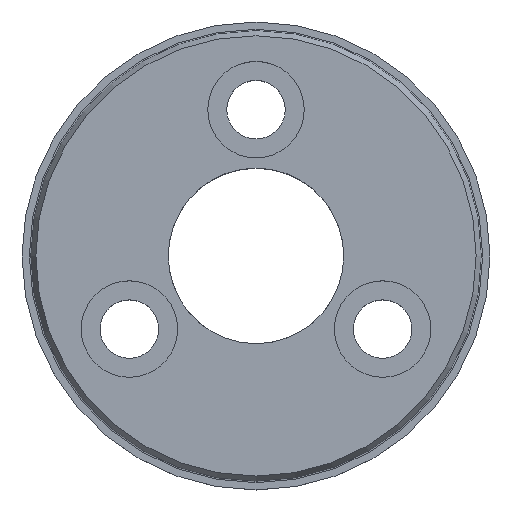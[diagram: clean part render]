
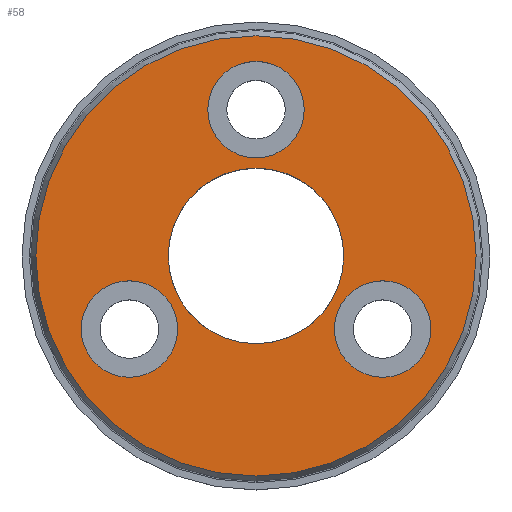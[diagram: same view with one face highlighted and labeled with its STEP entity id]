
A CAD part, top view. The second image highlights one B-rep face of the part: STEP entity #58.
In plain terms, the highlighted planar face has unit normal (0, 0, 1).
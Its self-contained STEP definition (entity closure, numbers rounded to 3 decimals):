
#58=ADVANCED_FACE('',(#87,#88,#89,#90,#91),#80,.T.);
#80=PLANE('',#317);
#87=FACE_BOUND('',#137,.T.);
#88=FACE_BOUND('',#138,.T.);
#89=FACE_BOUND('',#139,.T.);
#90=FACE_BOUND('',#140,.T.);
#91=FACE_BOUND('',#141,.T.);
#137=EDGE_LOOP('',(#187));
#138=EDGE_LOOP('',(#188));
#139=EDGE_LOOP('',(#189));
#140=EDGE_LOOP('',(#190));
#141=EDGE_LOOP('',(#191));
#187=ORIENTED_EDGE('',*,*,#262,.T.);
#188=ORIENTED_EDGE('',*,*,#263,.T.);
#189=ORIENTED_EDGE('',*,*,#264,.T.);
#190=ORIENTED_EDGE('',*,*,#265,.T.);
#191=ORIENTED_EDGE('',*,*,#266,.T.);
#237=VERTEX_POINT('',#454);
#238=VERTEX_POINT('',#456);
#239=VERTEX_POINT('',#458);
#240=VERTEX_POINT('',#460);
#241=VERTEX_POINT('',#462);
#262=EDGE_CURVE('',#237,#237,#287,.T.);
#263=EDGE_CURVE('',#238,#238,#288,.T.);
#264=EDGE_CURVE('',#239,#239,#289,.T.);
#265=EDGE_CURVE('',#240,#240,#290,.T.);
#266=EDGE_CURVE('',#241,#241,#291,.T.);
#287=CIRCLE('',#312,7.527);
#288=CIRCLE('',#313,1.65);
#289=CIRCLE('',#314,1.65);
#290=CIRCLE('',#315,1.65);
#291=CIRCLE('',#316,3.);
#312=AXIS2_PLACEMENT_3D('',#453,#360,#361);
#313=AXIS2_PLACEMENT_3D('',#455,#362,#363);
#314=AXIS2_PLACEMENT_3D('',#457,#364,#365);
#315=AXIS2_PLACEMENT_3D('',#459,#366,#367);
#316=AXIS2_PLACEMENT_3D('',#461,#368,#369);
#317=AXIS2_PLACEMENT_3D('',#463,#370,#371);
#360=DIRECTION('',(0.,0.,1.));
#361=DIRECTION('',(1.,0.,0.));
#362=DIRECTION('',(0.,0.,-1.));
#363=DIRECTION('',(0.5,-0.866,0.));
#364=DIRECTION('',(0.,0.,-1.));
#365=DIRECTION('',(0.5,0.866,0.));
#366=DIRECTION('',(0.,0.,-1.));
#367=DIRECTION('',(-1.,0.,0.));
#368=DIRECTION('',(0.,0.,-1.));
#369=DIRECTION('',(-1.,0.,0.));
#370=DIRECTION('',(0.,0.,1.));
#371=DIRECTION('',(1.,0.,0.));
#453=CARTESIAN_POINT('',(0.,0.,2.9));
#454=CARTESIAN_POINT('',(7.527,0.,2.9));
#455=CARTESIAN_POINT('',(-4.33,-2.5,2.9));
#456=CARTESIAN_POINT('',(-3.505,-3.929,2.9));
#457=CARTESIAN_POINT('',(4.33,-2.5,2.9));
#458=CARTESIAN_POINT('',(5.155,-1.071,2.9));
#459=CARTESIAN_POINT('',(0.,5.,2.9));
#460=CARTESIAN_POINT('',(-1.65,5.,2.9));
#461=CARTESIAN_POINT('',(0.,0.,2.9));
#462=CARTESIAN_POINT('',(-3.,0.,2.9));
#463=CARTESIAN_POINT('',(0.,8.,2.9));
